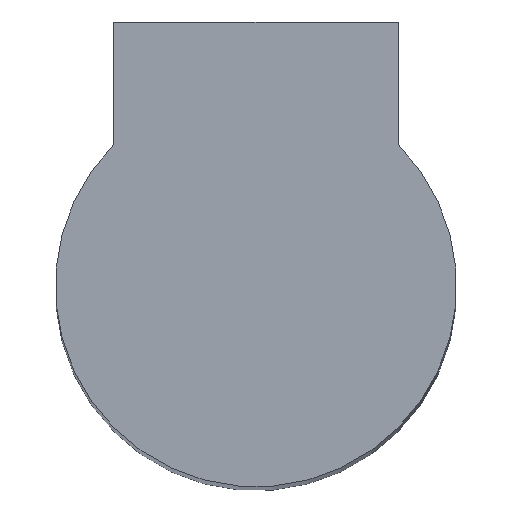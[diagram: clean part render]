
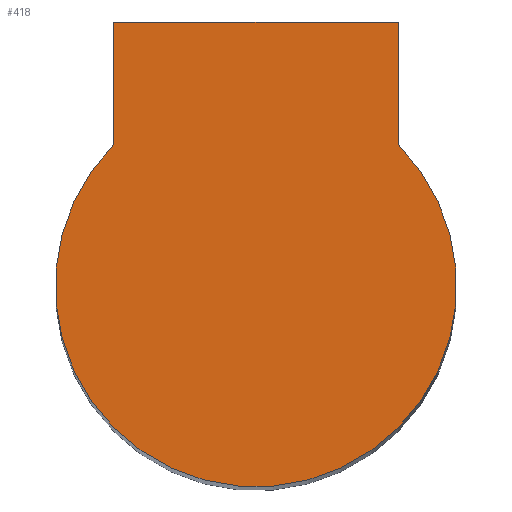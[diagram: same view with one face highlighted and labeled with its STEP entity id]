
A CAD part, top view. The second image highlights one B-rep face of the part: STEP entity #418.
In plain terms, the highlighted planar face has unit normal (0, 0, 1).
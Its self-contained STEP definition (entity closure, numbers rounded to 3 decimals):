
#30=LINE('',#639,#64);
#35=LINE('',#654,#69);
#42=LINE('',#678,#76);
#64=VECTOR('',#509,1000.);
#69=VECTOR('',#522,1000.);
#76=VECTOR('',#541,1000.);
#129=ORIENTED_EDGE('',*,*,#209,.F.);
#130=ORIENTED_EDGE('',*,*,#228,.F.);
#131=ORIENTED_EDGE('',*,*,#216,.F.);
#132=ORIENTED_EDGE('',*,*,#213,.F.);
#209=EDGE_CURVE('',#264,#265,#30,.T.);
#213=EDGE_CURVE('',#265,#268,#302,.T.);
#216=EDGE_CURVE('',#268,#270,#35,.T.);
#228=EDGE_CURVE('',#270,#264,#42,.T.);
#264=VERTEX_POINT('',#640);
#265=VERTEX_POINT('',#641);
#268=VERTEX_POINT('',#649);
#270=VERTEX_POINT('',#655);
#302=CIRCLE('',#456,1.975);
#331=EDGE_LOOP('',(#129,#130,#131,#132));
#367=FACE_BOUND('',#331,.T.);
#399=PLANE('',#467);
#418=ADVANCED_FACE('',(#367),#399,.F.);
#456=AXIS2_PLACEMENT_3D('',#648,#515,#516);
#467=AXIS2_PLACEMENT_3D('',#683,#547,#548);
#509=DIRECTION('',(0.,-1.,0.));
#515=DIRECTION('',(0.,0.,-1.));
#516=DIRECTION('',(-1.,0.,0.));
#522=DIRECTION('',(0.,1.,0.));
#541=DIRECTION('',(1.,0.,0.));
#547=DIRECTION('',(0.,0.,-1.));
#548=DIRECTION('',(-1.,0.,0.));
#639=CARTESIAN_POINT('',(1.4,2.6,0.));
#640=CARTESIAN_POINT('',(1.4,2.6,0.));
#641=CARTESIAN_POINT('',(1.4,1.393,0.));
#648=CARTESIAN_POINT('',(0.,0.,0.));
#649=CARTESIAN_POINT('',(-1.4,1.393,0.));
#654=CARTESIAN_POINT('',(-1.4,1.393,0.));
#655=CARTESIAN_POINT('',(-1.4,2.6,0.));
#678=CARTESIAN_POINT('',(-1.4,2.6,0.));
#683=CARTESIAN_POINT('',(0.,0.,0.));
